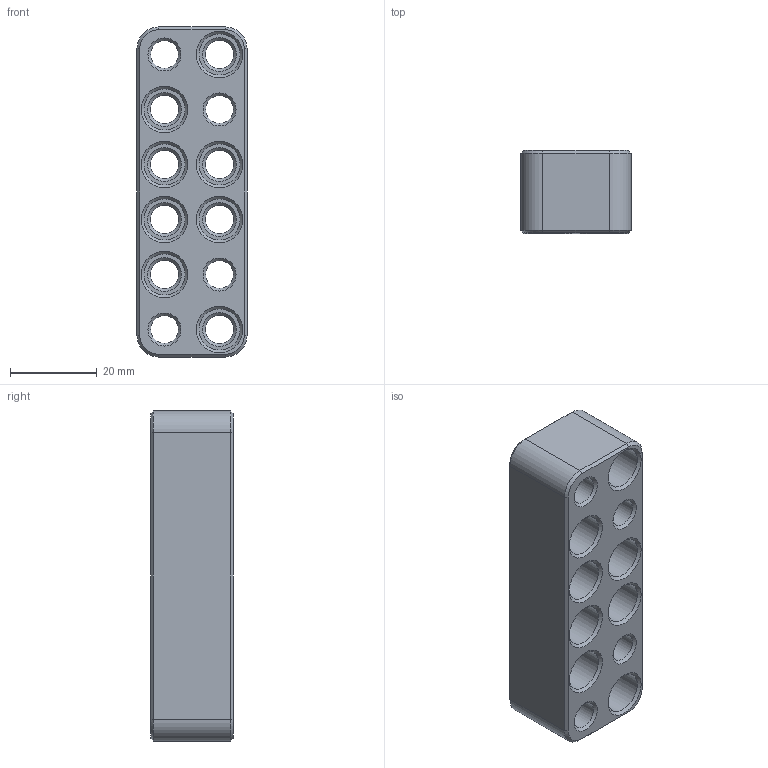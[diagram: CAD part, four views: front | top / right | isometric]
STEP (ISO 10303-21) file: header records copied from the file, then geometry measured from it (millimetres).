
FILE_DESCRIPTION(/* description */ (''),/* implementation_level */ '2;1');
FILE_NAME(/* name */ 'C:\Users\User\Desktop\Personal Projects\Fixturing\1x3x0,75 Fixture Block.stp',/* time_stamp */ '2019-07-22T08:10:04-04:00',/* author */ ('User'),/* organization */ (''),/* preprocessor_version */ 'ST-DEVELOPER v16.1',/* originating_system */ 'Autodesk Inventor 2016',/* authorisation */ '');
FILE_SCHEMA (('AUTOMOTIVE_DESIGN { 1 0 10303 214 3 1 1 }'));
Length unit declared in the file: inch
Products named in the file (1): 1x3x0,75 Fixture Block
Bounding box: 25.4 x 19.05 x 76.2 mm (x, y, z)
Volume: 25822.7 mm3; surface area: 11706.2 mm2
Topology: 1 solids, 1 shells, 86 faces, 184 edges, 108 vertices
Faces by surface type: cone 40, cylinder 24, plane 22
Full cylindrical faces by diameter (mm): 6.35 x4, 6.528 x8, 9.525 x8
Entity records: 2082 total; most frequent: DIRECTION 390, CARTESIAN_POINT 319, ORIENTED_EDGE 256, AXIS2_PLACEMENT_3D 175, EDGE_LOOP 170, EDGE_CURVE 128, VERTEX_POINT 104, CIRCLE 88
